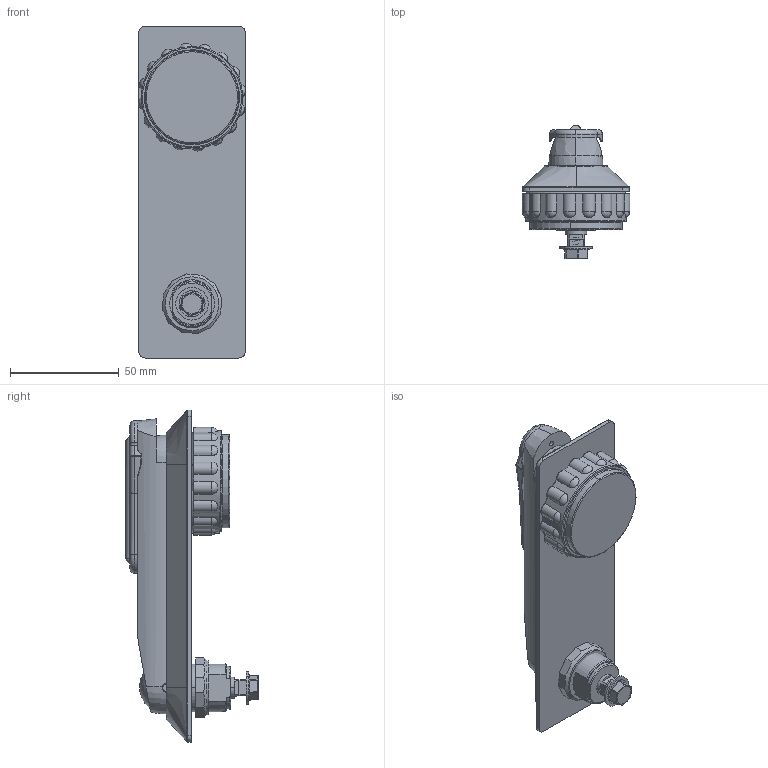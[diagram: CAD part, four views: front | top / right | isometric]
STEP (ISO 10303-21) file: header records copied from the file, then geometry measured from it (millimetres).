
FILE_DESCRIPTION (( 'STEP AP214' ), '1' );
FILE_NAME ('RS520..STEP', '2010-02-25T17:26:18', ( '£ukaszC' ), ( '' ), 'SwSTEP 2.0', 'SolidWorks 2008', '' );
FILE_SCHEMA (( 'AUTOMOTIVE_DESIGN' ));
Length unit declared in the file: millimetre
Products named in the file (14): RS520.; 1B.RS400.01.03.00; 1B RS 400.01.02.00_Domyœlna; 1B.RS420.01.01.00; Zapinka RESS_Domyœlna; 1B.RS 100.01.06.00_Domyœlna; 1B.RS100.01.04.00_Domyœlna; 1B.RS400.02.03.01; 1B. RS100.02.02.00_Domyœlna; O-RING 12x2_Domyœlna; O-RING 45 x 2_Domyœlna; M6 x 10_Domyœlna; 6,5 x 1; 1B.RS500.02.01.00
Assembly tree (13 placements, depth 2):
  RS520.
    Zapinka RESS_Domyœlna
    O-RING 45 x 2_Domyœlna
    1B RS 400.01.02.00_Domyœlna
    1B.RS420.01.01.00
    1B. RS100.02.02.00_Domyœlna
    6,5 x 1
    M6 x 10_Domyœlna
    O-RING 12x2_Domyœlna
    1B.RS400.02.03.01
    1B.RS 100.01.06.00_Domyœlna
    1B.RS100.01.04.00_Domyœlna
    1B.RS400.01.03.00
    1B.RS500.02.01.00
Bounding box: 49.56 x 61.19 x 153 mm (x, y, z)
Volume: 121491.2 mm3; surface area: 71121.9 mm2
Topology: 14 solids, 14 shells, 588 faces, 1520 edges, 963 vertices
Faces by surface type: cylinder 207, plane 197, torus 86, bspline 38, sphere 38, cone 22
Entity records: 23881 total; most frequent: CARTESIAN_POINT 9142, ORIENTED_EDGE 3016, DIRECTION 2940, EDGE_CURVE 1508, AXIS2_PLACEMENT_3D 1154, VERTEX_POINT 961, VECTOR 632, LINE 632
